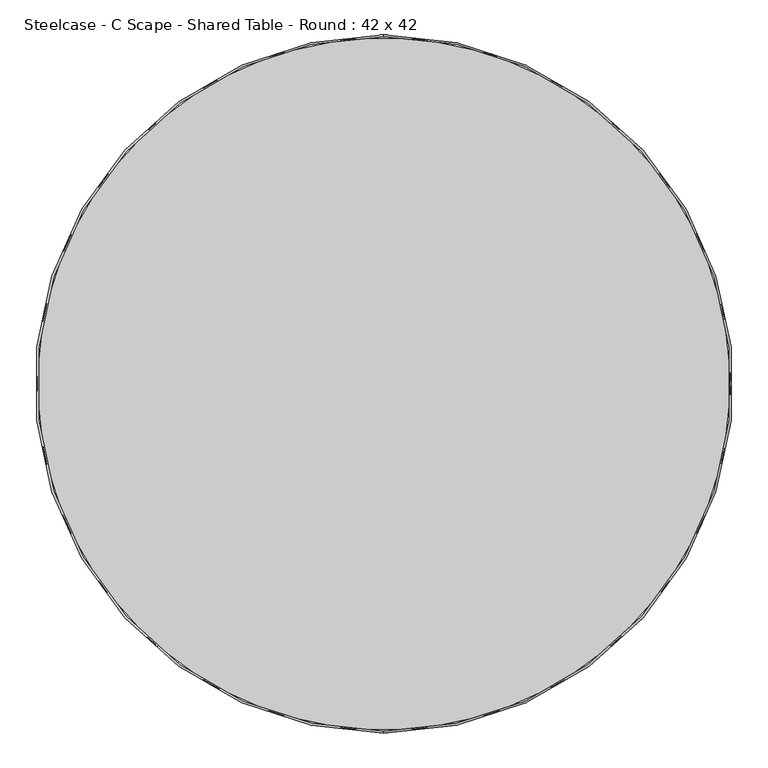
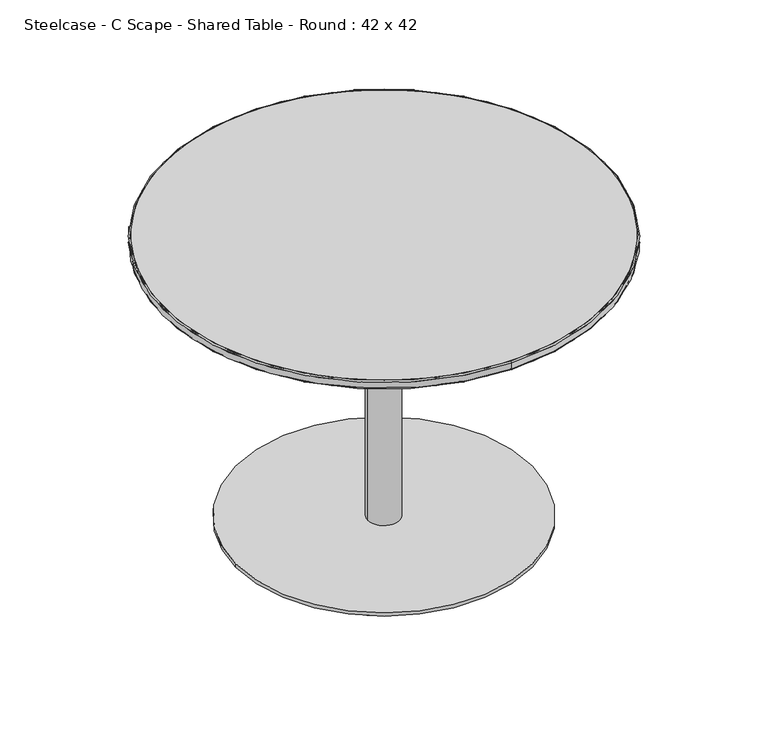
"""IFC4 building model written with IfcOpenShell, lengths in millimetres: furniture geometry, Steelcase - C Scape - Shared Table - Round : 42 x 42."""

from ifc_helpers import new_model, si_unit, point, frame, frame_2d, origin, origin_with_axes, place, context, project, spatial, polyline, circle_curve, ellipse_curve, trimmed, segment, composite_curve, outline, extrude, source, transform, mapped, element, save
from ifc_brep_helpers import plane_surface, cylinder_surface, revolved_surface, advanced_brep


def steelcase_c_scape_shared_table_round_42_x_42_61b79fea(model_context):
    return source(origin(), model_context, "Body", "SolidModel", [
        extrude(outline(composite_curve([segment(trimmed(circle_curve(frame_2d((538.1169393, -206.3887078)), 19.05), [point((519.0669393, -206.3887078))], [point((557.1669393, -206.3887078))], False, "CARTESIAN"), True, "CONTINUOUS"), segment(trimmed(circle_curve(frame_2d((538.1169393, -206.3887078)), 19.05), [point((557.1669393, -206.3887078))], [point((519.0669393, -206.3887078))], False, "CARTESIAN"), True, "CONTINUOUS")], self_intersect=False)), origin_with_axes(), (0.0, 0.0, 1.0), 4.7752),
        extrude(outline(composite_curve([segment(trimmed(circle_curve(frame_2d((849.5274141, -431.9223889)), 19.05), [point((830.4774141, -431.9223889))], [point((868.5774141, -431.9223889))], False, "CARTESIAN"), True, "CONTINUOUS"), segment(trimmed(circle_curve(frame_2d((849.5274141, -431.9223889)), 19.05), [point((868.5774141, -431.9223889))], [point((830.4774141, -431.9223889))], False, "CARTESIAN"), True, "CONTINUOUS")], self_intersect=False)), origin_with_axes(), (0.0, 0.0, 1.0), 4.7752),
        extrude(outline(composite_curve([segment(trimmed(circle_curve(frame_2d((217.2725859, -431.9223889)), 19.05), [point((198.2225859, -431.9223889))], [point((236.3225859, -431.9223889))], False, "CARTESIAN"), True, "CONTINUOUS"), segment(trimmed(circle_curve(frame_2d((217.2725859, -431.9223889)), 19.05), [point((236.3225859, -431.9223889))], [point((198.2225859, -431.9223889))], False, "CARTESIAN"), True, "CONTINUOUS")], self_intersect=False)), origin_with_axes(), (0.0, 0.0, 1.0), 4.7752),
        extrude(outline(composite_curve([segment(trimmed(circle_curve(frame_2d((343.3814105, -801.3440092)), 19.05), [point((324.3314105, -801.3440092))], [point((362.4314105, -801.3440092))], False, "CARTESIAN"), True, "CONTINUOUS"), segment(trimmed(circle_curve(frame_2d((343.3814105, -801.3440092)), 19.05), [point((362.4314105, -801.3440092))], [point((324.3314105, -801.3440092))], False, "CARTESIAN"), True, "CONTINUOUS")], self_intersect=False)), origin_with_axes(), (0.0, 0.0, 1.0), 4.7752),
        extrude(outline(composite_curve([segment(trimmed(circle_curve(frame_2d((723.4185895, -801.3440092)), 19.05), [point((704.3685895, -801.3440092))], [point((742.4685895, -801.3440092))], False, "CARTESIAN"), True, "CONTINUOUS"), segment(trimmed(circle_curve(frame_2d((723.4185895, -801.3440092)), 19.05), [point((742.4685895, -801.3440092))], [point((704.3685895, -801.3440092))], False, "CARTESIAN"), True, "CONTINUOUS")], self_intersect=False)), origin_with_axes(), (0.0, 0.0, 1.0), 4.7752),
        extrude(outline(polyline([(443.2461817, -627.0451349), (443.2461817, -449.2450865), (621.0460848, -449.2450865), (621.0460848, -627.0451349), (443.2461817, -627.0451349)])), frame((0.0, 0.0, 686.0031853), z_axis=(0.0, 0.0, 1.0), x_axis=(1.0, 0.0, 0.0)), (0.0, 0.0, 1.0), 9.4488147),
        extrude(outline(composite_curve([segment(trimmed(circle_curve(frame_2d((532.60625, -533.4)), 38.1), [point((494.50625, -533.4))], [point((570.70625, -533.4))], False, "CARTESIAN"), True, "CONTINUOUS"), segment(trimmed(circle_curve(frame_2d((532.60625, -533.4)), 38.1), [point((570.70625, -533.4))], [point((494.50625, -533.4))], False, "CARTESIAN"), True, "CONTINUOUS")], self_intersect=False)), frame((0.0, 0.0, 12.7), z_axis=(0.0, 0.0, 1.0), x_axis=(1.0, 0.0, 0.0)), (0.0, 0.0, 1.0), 673.3031853),
        extrude(outline(composite_curve([segment(trimmed(circle_curve(frame_2d((533.4, -533.4)), 355.6), [point((177.8, -533.4))], [point((889.0, -533.4))], False, "CARTESIAN"), True, "CONTINUOUS"), segment(trimmed(circle_curve(frame_2d((533.4, -533.4)), 355.6), [point((889.0, -533.4))], [point((177.8, -533.4))], False, "CARTESIAN"), True, "CONTINUOUS")], self_intersect=False)), frame((0.0, 0.0, 4.7752), z_axis=(0.0, 0.0, 1.0), x_axis=(1.0, 0.0, 0.0)), (0.0, 0.0, 1.0), 7.9248),
        advanced_brep(
        [(533.4, -2.0827992, 705.9399771), (533.4, -1064.7172008, 705.9399771), (533.4, -1061.72, 703.453), (533.4, -5.08, 703.453), (533.4, -2.0827992, 720.9027992), (533.4, -1064.7172008, 720.9027992), (533.4, -5.08, 723.9), (533.4, -1061.72, 723.9)],
        [
            (0, 1, circle_curve(frame((533.4, -533.4, 705.9399771), z_axis=(0.0, 0.0, -1.0), x_axis=(0.0, -1.0, 0.0)), 531.3172008)),
            (1, 2, circle_curve(frame((533.4, -1062.1867951, 705.9399771), z_axis=(1.0, 0.0, 0.0), x_axis=(0.0, 1.0, 0.0)), 2.5304056)),
            (2, 3, circle_curve(frame((533.4, -533.4, 703.453), z_axis=(0.0, 0.0, 1.0), x_axis=(0.0, -1.0, 0.0)), 528.32)),
            (3, 0, circle_curve(frame((533.4, -4.6132049, 705.9399771), z_axis=(1.0, 0.0, 0.0), x_axis=(0.0, -1.0, 0.0)), 2.5304056)),
            (4, 5, circle_curve(frame((533.4, -533.4, 720.9027992), z_axis=(0.0, 0.0, -1.0), x_axis=(0.0, -1.0, 0.0)), 531.3172008)),
            (5, 1),
            (0, 4),
            (6, 7, circle_curve(frame((533.4, -533.4, 723.9), z_axis=(0.0, 0.0, -1.0), x_axis=(0.0, -1.0, 0.0)), 528.32)),
            (7, 5, circle_curve(frame((533.4, -1061.72, 720.9027992), z_axis=(1.0, 0.0, 0.0), x_axis=(0.0, 1.0, 0.0)), 2.9972008)),
            (4, 6, circle_curve(frame((533.4, -5.08, 720.9027992), z_axis=(1.0, 0.0, 0.0), x_axis=(0.0, -1.0, 0.0)), 2.9972008)),
            (2, 7),
            (6, 3),
            (1, 0, circle_curve(frame((533.4, -533.4, 705.9399771), z_axis=(0.0, 0.0, -1.0), x_axis=(0.0, 1.0, 0.0)), 531.3172008)),
            (3, 2, circle_curve(frame((533.4, -533.4, 703.453), z_axis=(0.0, 0.0, 1.0), x_axis=(0.0, 1.0, 0.0)), 528.32)),
            (5, 4, circle_curve(frame((533.4, -533.4, 720.9027992), z_axis=(0.0, 0.0, -1.0), x_axis=(0.0, 1.0, 0.0)), 531.3172008)),
            (7, 6, circle_curve(frame((533.4, -533.4, 723.9), z_axis=(0.0, 0.0, -1.0), x_axis=(0.0, 1.0, 0.0)), 528.32)),
        ],
        [
            revolved_surface(trimmed(ellipse_curve(frame((533.4, -1062.1867951, 705.9399771), z_axis=(-1.0, 0.0, 0.0), x_axis=(0.0, 1.0, 0.0)), 2.5304056, 2.5304056), [point((533.4, -1061.72, 703.453))], [point((533.4, -1064.7172008, 705.9399771))], True, "CARTESIAN"), (533.4, -533.4, 703.453), (0.0, 0.0, 1.0)),
            cylinder_surface(frame((533.4, -533.4, 703.453), z_axis=(0.0, 0.0, 1.0), x_axis=(0.0, -1.0, 0.0)), 531.3172008),
            revolved_surface(trimmed(ellipse_curve(frame((533.4, -1061.72, 720.9027992), z_axis=(-1.0, 0.0, 0.0), x_axis=(0.0, 1.0, 0.0)), 2.9972008, 2.9972008), [point((533.4, -1064.7172008, 720.9027992))], [point((533.4, -1061.72, 723.9))], True, "CARTESIAN"), (533.4, -533.4, 703.453), (0.0, 0.0, 1.0)),
            revolved_surface(polyline([(533.4, -1061.72, 723.9), (533.4, -1061.72, 703.453)]), (533.4, -533.4, 703.453), (0.0, 0.0, 1.0)),
            revolved_surface(trimmed(ellipse_curve(frame((533.4, -4.6132049, 705.9399771), z_axis=(1.0, 0.0, 0.0), x_axis=(0.0, -1.0, 0.0)), 2.5304056, 2.5304056), [point((533.4, -5.08, 703.453))], [point((533.4, -2.0827992, 705.9399771))], True, "CARTESIAN"), (533.4, -533.4, 703.453), (0.0, 0.0, 1.0)),
            cylinder_surface(frame((533.4, -533.4, 703.453), z_axis=(0.0, 0.0, 1.0), x_axis=(0.0, 1.0, 0.0)), 531.3172008),
            revolved_surface(trimmed(ellipse_curve(frame((533.4, -5.08, 720.9027992), z_axis=(1.0, 0.0, 0.0), x_axis=(0.0, -1.0, 0.0)), 2.9972008, 2.9972008), [point((533.4, -2.0827992, 720.9027992))], [point((533.4, -5.08, 723.9))], True, "CARTESIAN"), (533.4, -533.4, 703.453), (0.0, 0.0, 1.0)),
            revolved_surface(polyline([(533.4, -5.079999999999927, 723.9), (533.4, -5.079999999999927, 703.453)]), (533.4, -533.4, 703.453), (0.0, 0.0, 1.0)),
        ],
        [
            (0, [[1, 2, 3, 4]]),
            (1, [[5, 6, -1, 7]]),
            (2, [[8, 9, -5, 10]]),
            (3, [[-3, 11, -8, 12]]),
            (4, [[13, -4, 14, -2]]),
            (5, [[15, -7, -13, -6]]),
            (6, [[16, -10, -15, -9]]),
            (7, [[-14, -12, -16, -11]]),
        ],
    ),
        extrude(outline(composite_curve([segment(trimmed(circle_curve(frame_2d((533.4, -533.4)), 528.32), [point((5.08, -533.4))], [point((1061.72, -533.4))], False, "CARTESIAN"), True, "CONTINUOUS"), segment(trimmed(circle_curve(frame_2d((533.4, -533.4)), 528.32), [point((1061.72, -533.4))], [point((5.08, -533.4))], False, "CARTESIAN"), True, "CONTINUOUS")], self_intersect=False)), frame((0.0, 0.0, 703.453), z_axis=(0.0, 0.0, 1.0), x_axis=(1.0, 0.0, 0.0)), (0.0, 0.0, 1.0), 20.447),
        advanced_brep(
        [(5.08, -533.4, 703.453), (1061.72, -533.4, 703.453), (52.832, -533.4, 693.928), (1013.968, -533.4, 693.928)],
        [
            (0, 1, circle_curve(frame((533.4, -533.4, 703.453), z_axis=(0.0, 0.0, 1.0), x_axis=(-1.0, 0.0, 0.0)), 528.32)),
            (1, 0, circle_curve(frame((533.4, -533.4, 703.453), z_axis=(0.0, 0.0, 1.0), x_axis=(1.0, 0.0, 0.0)), 528.32)),
            (2, 3, circle_curve(frame((533.4, -533.4, 693.928), z_axis=(0.0, 0.0, -1.0), x_axis=(1.0, 0.0, 0.0)), 480.568)),
            (3, 2, circle_curve(frame((533.4, -533.4, 693.928), z_axis=(0.0, 0.0, -1.0), x_axis=(-1.0, 0.0, 0.0)), 480.568)),
            (3, 1),
            (0, 2),
        ],
        [
            plane_surface(frame((533.4, -533.4, 703.453), z_axis=(0.0, 0.0, 1.0), x_axis=(0.0, -1.0, 0.0))),
            plane_surface(frame((533.4, -533.4, 693.928), z_axis=(0.0, 0.0, -1.0), x_axis=(0.0, -1.0, 0.0))),
            revolved_surface(polyline([(1013.967999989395, -533.4, 693.928), (1061.72, -533.4, 703.453)]), (533.4, -533.4, 598.0700213), (0.0, 0.0, 1.0)),
            revolved_surface(polyline([(52.83200001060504, -533.4, 693.928), (5.080000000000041, -533.4, 703.453)]), (533.4, -533.4, 598.0700213), (0.0, 0.0, 1.0)),
        ],
        [
            (0, [[1, 2]]),
            (1, [[3, 4]]),
            (2, [[-4, 5, -1, 6]]),
            (3, [[-3, -6, -2, -5]]),
        ],
    ),
    ])


if __name__ == "__main__":
    model = new_model("IFC4")
    model_context = context("Model", 3, world=origin())
    ifc_project = project(units=[si_unit("LENGTHUNIT", "METRE", prefix="MILLI")], contexts=[model_context])
    site = spatial("IfcSite", under=ifc_project)
    building = spatial("IfcBuilding", under=site)
    placement = place(None, origin())
    steelcase_c_scape_shared_table_round_42_x_42_shape = steelcase_c_scape_shared_table_round_42_x_42_61b79fea(model_context)
    element("IfcFurniture", 1, ObjectType="Steelcase - C Scape - Shared Table - Round : 42 x 42", at=placement, inside=building, context=model_context, shape_type="MappedRepresentation", body=[
        mapped(steelcase_c_scape_shared_table_round_42_x_42_shape, transform((0.0, 0.0, 0.0), x_axis=(1.0, 0.0, 0.0), y_axis=(0.0, 1.0, 0.0), z_axis=(0.0, 0.0, 1.0))),
    ])
    save(model, "model.ifc")
